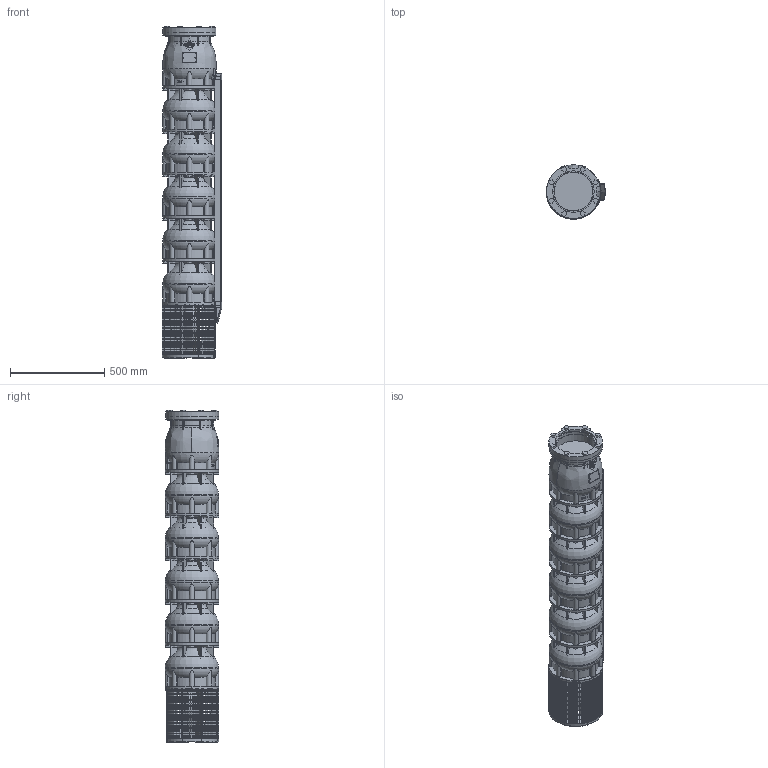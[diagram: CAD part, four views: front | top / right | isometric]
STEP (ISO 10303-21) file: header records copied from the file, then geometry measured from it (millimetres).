
FILE_DESCRIPTION(/* description */ ('-'),/* implementation_level */ '2;1');
FILE_NAME(/* name */ 'VSI454-5-1E1F_WF_M12-50_DME',/* time_stamp */ '2026-01-21T15:11:37+01:00',/* author */ ('Simonelli M.'),/* organization */ ('Franklin Electric Srl'),/* preprocessor_version */ 'ST-DEVELOPER v18.102',/* originating_system */ 'Solid Edge',/* authorisation */ 'Unknown');
FILE_SCHEMA (('AUTOMOTIVE_DESIGN {1 0 10303 214 3 1 1}'));
Products named in the file (12): VSI454-5-1E1F_WF_M12-50_DME; VSI344-454_testata; VSI344-454_supporto; VSI344-454_filtro_A; VSI344-454_filtro_B; VSI344-454_terminale_top_copricavo_medio; VSI344-454_terminale_bottom_copricavo_medio; MID 454-5; VSI454_diffusore; M5X8_UNI7687; VSI184-254_giunto_10×12; VSI344-454_flangia_testata
Assembly tree (24 placements, depth 2):
  VSI454-5-1E1F_WF_M12-50_DME
    VSI344-454_testata
    VSI344-454_supporto
    VSI344-454_filtro_A
    VSI344-454_filtro_B
    VSI344-454_terminale_top_copricavo_medio
    VSI344-454_terminale_bottom_copricavo_medio
    MID 454-5
    VSI454_diffusore  x5
    M5X8_UNI7687  x10
    VSI184-254_giunto_10×12
    VSI344-454_flangia_testata
Bounding box: 314.3 x 286 x 1765 mm (x, y, z)
Volume: 75125013.7 mm3; surface area: 3835916.3 mm2
Topology: 89 solids, 89 shells, 4522 faces, 12719 edges, 8449 vertices
Faces by surface type: plane 3591, cylinder 506, torus 299, cone 101, bspline 15, sphere 10
Full cylindrical faces by diameter (mm): 5 x10, 16 x8, 35 x1, 65 x1, 79 x1, 150 x1, 207 x1, 220.5 x1, 284.507 x5, 285 x5
Entity records: 124583 total; most frequent: CARTESIAN_POINT 28073, ORIENTED_EDGE 20264, DIRECTION 19366, EDGE_CURVE 10132, VERTEX_POINT 6757, AXIS2_PLACEMENT_3D 6541, LINE 6284, VECTOR 6284
